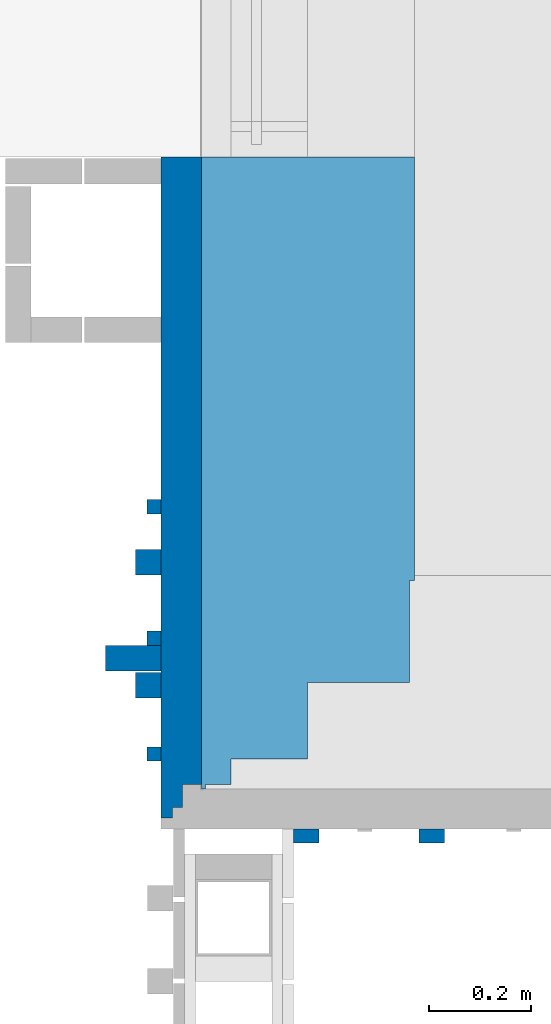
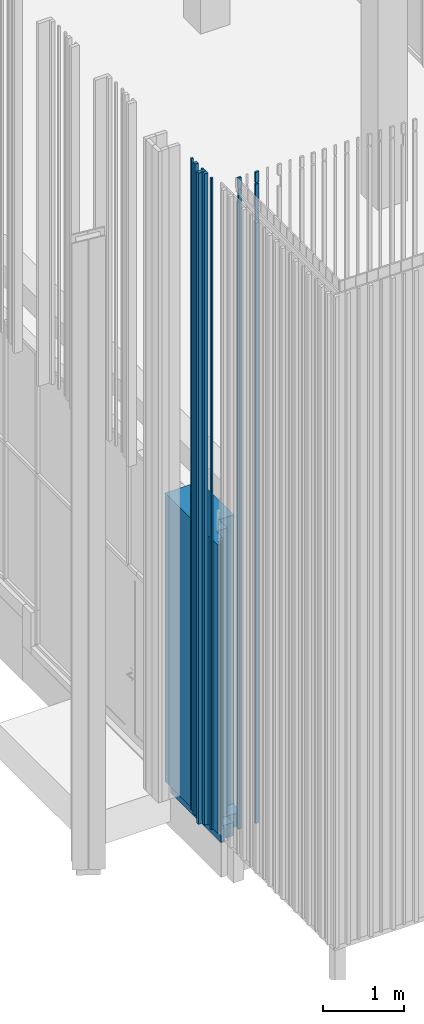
# One storey, part 86 of 390: 10 walls.
"""IFC2X3 building model written with IfcOpenShell, lengths in millimetres."""

from ifc_helpers import new_model, entity, si_unit, converted_unit, derived_unit, money_unit, direction, frame, origin_with_axes, place, context, subcontext, project, spatial, faceted_brep, material, material_list, type_object, element, save


model = new_model("IFC2X3")

# Units and contexts
model_context = context("Model", 3, precision=1e-05, world=origin_with_axes(), true_north=direction((0.0, 1.0)))
body_context = subcontext(model_context, "Body", "Model", "MODEL_VIEW")
ifc_project = project(units=[si_unit("LENGTHUNIT", "METRE", prefix="MILLI"), si_unit("AREAUNIT", "SQUARE_METRE"), si_unit("VOLUMEUNIT", "CUBIC_METRE"), converted_unit("PLANEANGLEUNIT", "DEGREE", entity("IfcPlaneAngleMeasure", 0.0174532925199), si_unit("PLANEANGLEUNIT", "RADIAN"), dimensions=[0, 0, 0, 0, 0, 0, 0]), si_unit("SOLIDANGLEUNIT", "STERADIAN"), money_unit("EUR"), converted_unit("TIMEUNIT", "Year", entity("IfcTimeMeasure", 31556926.0), si_unit("TIMEUNIT", "SECOND"), dimensions=[0, 0, 1, 0, 0, 0, 0]), si_unit("MASSUNIT", "GRAM", prefix="KILO"), si_unit("THERMODYNAMICTEMPERATUREUNIT", "DEGREE_CELSIUS"), si_unit("LUMINOUSINTENSITYUNIT", "LUMEN"), si_unit("ENERGYUNIT", "JOULE", prefix="MEGA"), derived_unit("THERMALCONDUCTANCEUNIT", [(si_unit("POWERUNIT", "WATT"), 1), (si_unit("LENGTHUNIT", "METRE"), -1), (si_unit("THERMODYNAMICTEMPERATUREUNIT", "KELVIN"), -1)]), derived_unit("SPECIFICHEATCAPACITYUNIT", [(si_unit("ENERGYUNIT", "JOULE"), 1), (si_unit("MASSUNIT", "GRAM", prefix="KILO"), -1), (si_unit("THERMODYNAMICTEMPERATUREUNIT", "KELVIN"), -1)]), derived_unit("MASSDENSITYUNIT", [(si_unit("MASSUNIT", "GRAM", prefix="KILO"), 1), (si_unit("VOLUMEUNIT", "CUBIC_METRE"), -1)])], contexts=[model_context])

# Site, building, storey
site_placement = place(None, origin_with_axes())
site = spatial("IfcSite", under=ifc_project, at=site_placement, Name="Site", CompositionType="ELEMENT")
building_placement = place(site_placement, origin_with_axes())
building = spatial("IfcBuilding", under=site, at=building_placement, Name="Building", CompositionType="ELEMENT")
storey_placement = place(building_placement, origin_with_axes())
storey = spatial("IfcBuildingStorey", under=building, at=storey_placement, Name="1 korrus", CompositionType="ELEMENT", Elevation=0.0)

# Walls
ifc_material_1 = material(Name="Puit - Konstruktsioon")
ifc_material_2 = material(Name="Õhkvahe")
ifc_material_3 = material(Name="Soojustus - Plastik Kõva")
ifc_material_4 = material(Name="Raudbetoon - Toode")
ifc_material_5 = material(Name="Krohv - Lubjakivi")
ifc_material_list_1 = material_list([ifc_material_1, ifc_material_1, ifc_material_2, ifc_material_3, ifc_material_3, ifc_material_4, ifc_material_5])
wall_type_1 = type_object("IfcWallType", Name="VS-01", PredefinedType="NOTDEFINED")
wall_1_placement = place(storey_placement, frame((122909.999998, 45760.0000084, 99.9999970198), z_axis=(0.0, 0.0, 1.0), x_axis=(-1.18227362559e-10, 1.0, 0.0)))
element("IfcWall", 1, at=wall_1_placement, inside=storey, type_object=wall_type_1, material=ifc_material_list_1, Name="VS-01", context=body_context, shape_type="Brep", body=[
    faceted_brep([(-474.999997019, 497.000000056, 0.0), (820.000114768, 496.999999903, 0.0), (820.000114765, 474.999999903, 0.0), (-474.999997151, 475.000000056, 0.0), (-474.999997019, 497.000000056, 4324.99965505), (820.000114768, 496.999999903, 4324.99965505), (820.000114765, 474.999999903, 4324.99965505), (-474.999997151, 475.000000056, 4324.99965505)], [[[0, 1, 2, 3]], [[4, 5, 1, 0]], [[2, 1, 5, 6]], [[3, 2, 6, 7]], [[4, 0, 3, 7]], [[7, 6, 5, 4]]]),
    faceted_brep([(-454.999997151, 475.000000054, 0.0), (820.000114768, 474.999999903, 0.0), (820.000114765, 454.999999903, 0.0), (-454.999997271, 455.000000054, 0.0), (-454.999997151, 475.000000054, 4324.99965505), (820.000114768, 474.999999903, 4324.99965505), (820.000114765, 454.999999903, 4324.99965505), (-454.999997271, 455.000000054, 4324.99965505)], [[[0, 1, 2, 3]], [[4, 5, 1, 0]], [[2, 1, 5, 6]], [[3, 2, 6, 7]], [[4, 0, 3, 7]], [[7, 6, 5, 4]]]),
    faceted_brep([(-409.999997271, 455.000000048, 0.0), (820.00011477, 454.999999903, 0.0), (820.000114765, 409.999999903, 0.0), (-409.999997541, 410.000000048, 0.0), (-409.999997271, 455.000000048, 4324.99965505), (820.00011477, 454.999999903, 4324.99965505), (820.000114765, 409.999999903, 4324.99965505), (-409.999997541, 410.000000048, 4324.99965505)], [[[0, 1, 2, 3]], [[4, 5, 1, 0]], [[2, 1, 5, 6]], [[3, 2, 6, 7]], [[4, 0, 3, 7]], [[7, 6, 5, 4]]]),
    faceted_brep([(-359.999997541, 410.000000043, 0.0), (820.000114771, 409.999999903, 0.0), (820.000114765, 359.999999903, 0.0), (-359.999997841, 360.000000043, 0.0), (-359.999997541, 410.000000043, 4324.99965505), (820.000114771, 409.999999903, 4324.99965505), (820.000114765, 359.999999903, 4324.99965505), (-359.999997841, 360.000000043, 4324.99965505)], [[[0, 1, 2, 3]], [[4, 5, 1, 0]], [[2, 1, 5, 6]], [[3, 2, 6, 7]], [[4, 0, 3, 7]], [[7, 6, 5, 4]]]),
    faceted_brep([(-209.999997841, 360.000000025, 0.0), (820.000114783, 359.999999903, 0.0), (820.000114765, 209.999999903, 0.0), (-209.99999874, 210.000000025, 0.0), (-209.999997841, 360.000000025, 4324.99965505), (820.000114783, 359.999999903, 4324.99965505), (820.000114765, 209.999999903, 4324.99965505), (-209.99999874, 210.000000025, 4324.99965505)], [[[0, 1, 2, 3]], [[4, 5, 1, 0]], [[2, 1, 5, 6]], [[3, 2, 6, 7]], [[4, 0, 3, 7]], [[7, 6, 5, 4]]]),
    faceted_brep([(-9.99999874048, 210.000000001, 0.0), (820.000114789, 209.999999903, 0.0), (820.000114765, 9.99999990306, 0.0), (-9.99999994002, 10.0000000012, 0.0), (-9.99999874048, 210.000000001, 4324.99965505), (820.000114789, 209.999999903, 4324.99965505), (820.000114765, 9.99999990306, 4324.99965505), (-9.99999994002, 10.0000000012, 4324.99965505)], [[[0, 1, 2, 3]], [[4, 5, 1, 0]], [[2, 1, 5, 6]], [[3, 2, 6, 7]], [[4, 0, 3, 7]], [[7, 6, 5, 4]]]),
    faceted_brep([(5.99769123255e-08, 10.0, 0.0), (820.000114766, 9.99999990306, 0.0), (820.000114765, -9.69464508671e-08, 0.0), (0.0, 0.0, 0.0), (5.99769123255e-08, 10.0, 4324.99965505), (820.000114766, 9.99999990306, 4324.99965505), (820.000114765, -9.69464508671e-08, 4324.99965505), (0.0, 0.0, 4324.99965505)], [[[0, 1, 2, 3]], [[4, 5, 1, 0]], [[2, 1, 5, 6]], [[3, 2, 6, 7]], [[4, 0, 3, 7]], [[7, 6, 5, 4]]]),
])
ifc_material_6 = material(Name="Site specified")
ifc_material_list_2 = material_list([ifc_material_6, ifc_material_6])
wall_type_2 = type_object("IfcWallType", Name="Puitfassaadi ribistik", PredefinedType="NOTDEFINED")
wall_2_placement = place(storey_placement, frame((122697.99996, 45260.9999259, 100.000000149), z_axis=(0.0, 0.0, 1.0), x_axis=(-1.0, 0.0, 0.0)))
element("IfcWall", 2, at=wall_2_placement, inside=storey, type_object=wall_type_2, material=ifc_material_list_2, Name="Site specified", context=body_context, shape_type="Brep", body=[
    faceted_brep([(25.0, -1.99998620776, -3.12924797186e-06), (25.0, -2.00008252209, 9438.5673503), (18.0000000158, -2.00008252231, 9438.5673503), (18.0000000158, -1.99983969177, 9591.91840404), (-25.0, -2.00008252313, 9591.91726162), (-25.0, -1.99998620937, -3.12924797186e-06), (25.0, 25.0, 0.0), (25.0, 25.0, 9432.82829164), (18.0000000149, 25.0, 9432.82829164), (18.0000000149, 25.0002399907, 9586.17934598), (-25.0, 25.0, 9586.17821691), (-25.0, 25.0, 0.0)], [[[0, 1, 2, 3, 4, 5]], [[6, 7, 1, 0]], [[8, 2, 1, 7]], [[8, 9, 3, 2]], [[4, 3, 9, 10]], [[11, 5, 4, 10]], [[6, 0, 5, 11]], [[9, 8, 7, 6, 11, 10]]]),
    faceted_brep([(-25.0, 25.0, 9764.99999985), (-25.0, 25.0, 9607.64736941), (-25.0, -2.0000825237, 9613.38641411), (-25.0, -2.0000825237, 9764.99999985), (25.0, 25.0, 9764.99999985), (25.0, 25.0, 9607.64736941), (25.0, -2.00008252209, 9613.38641411), (25.0, -2.00008252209, 9764.99999985)], [[[0, 1, 2, 3]], [[4, 5, 1, 0]], [[5, 6, 2, 1]], [[3, 2, 6, 7]], [[3, 7, 4, 0]], [[7, 6, 5, 4]]]),
])
wall_3_placement = place(storey_placement, frame((122943.999994, 45260.9999259, 100.000000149), z_axis=(0.0, 0.0, 1.0), x_axis=(-1.0, 0.0, 0.0)))
element("IfcWall", 3, at=wall_3_placement, inside=storey, type_object=wall_type_2, material=ifc_material_list_2, Name="Site specified", context=body_context, shape_type="Brep", body=[
    faceted_brep([(25.0, -1.99998620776, -3.12924797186e-06), (25.0, -2.00008252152, 9591.91726162), (-25.0, -2.00008252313, 9591.91726162), (-25.0, -1.99998620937, -3.12924797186e-06), (25.0, 25.0, 0.0), (25.0, 25.0, 9586.17821691), (-25.0, 25.0, 9586.17821691), (-25.0, 25.0, 0.0)], [[[0, 1, 2, 3]], [[4, 5, 1, 0]], [[5, 6, 2, 1]], [[3, 2, 6, 7]], [[0, 3, 7, 4]], [[7, 6, 5, 4]]]),
    faceted_brep([(-25.0, 25.0, 9764.99999985), (-25.0, 25.0, 9607.64736941), (-25.0, -2.0000825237, 9613.38641411), (-25.0, -2.0000825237, 9764.99999985), (25.0, 25.0, 9764.99999985), (25.0, 25.0, 9607.64736941), (25.0, -2.00008252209, 9613.38641411), (25.0, -2.00008252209, 9764.99999985)], [[[0, 1, 2, 3]], [[4, 5, 1, 0]], [[5, 6, 2, 1]], [[3, 2, 6, 7]], [[3, 7, 4, 0]], [[7, 6, 5, 4]]]),
])
wall_4_placement = place(storey_placement, frame((122358.499998, 45597.9999773, 99.9999970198), z_axis=(0.0, 0.0, 1.0), x_axis=(0.0, 1.0, 0.0)))
element("IfcWall", 4, at=wall_4_placement, inside=storey, type_object=wall_type_2, material=ifc_material_6, Name="Site specified", context=body_context, shape_type="Brep", body=[
    faceted_brep([(-25.0, 54.5, 9765.00000298), (25.0, 54.5, 9765.00000298), (25.0, 54.5, 0.0), (-25.0, 54.5, 0.0), (-25.0, -54.5, 9765.00000298), (25.0, -54.5, 9765.00000298), (25.0, -54.5, 0.0), (-25.0, -54.5, 0.0)], [[[0, 1, 2, 3]], [[4, 5, 1, 0]], [[1, 5, 6, 2]], [[7, 3, 2, 6]], [[4, 0, 3, 7]], [[5, 4, 7, 6]]]),
])
wall_5_placement = place(storey_placement, frame((122398.999998, 45636.9999773, 99.9999970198), z_axis=(0.0, 0.0, 1.0), x_axis=(0.0, 1.0, 0.0)))
element("IfcWall", 5, at=wall_5_placement, inside=storey, type_object=wall_type_2, material=ifc_material_6, Name="Site specified", context=body_context, shape_type="Brep", body=[
    faceted_brep([(-14.0, 14.0, 9765.00000298), (14.0, 14.0, 9765.00000298), (14.0, 14.0, 0.0), (-14.0, 14.0, 0.0), (-14.0, -14.0, 9765.00000298), (14.0, -14.0, 9765.00000298), (14.0, -14.0, 0.0), (-14.0, -14.0, 0.0)], [[[0, 1, 2, 3]], [[4, 5, 1, 0]], [[1, 5, 6, 2]], [[7, 3, 2, 6]], [[4, 0, 3, 7]], [[5, 4, 7, 6]]]),
])
wall_6_placement = place(storey_placement, frame((122398.999998, 45894.9999773, 99.9999970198), z_axis=(0.0, 0.0, 1.0), x_axis=(0.0, 1.0, 0.0)))
element("IfcWall", 6, at=wall_6_placement, inside=storey, type_object=wall_type_2, material=ifc_material_6, Name="Site specified", context=body_context, shape_type="Brep", body=[
    faceted_brep([(14.0, 14.0, 9765.00000298), (14.0, 14.0, 0.0), (-14.0, 14.0, 0.0), (-14.0, 14.0, 9765.00000298), (14.0, -14.0, 9765.00000298), (14.0, -14.0, 0.0), (-14.0, -14.0, 0.0), (-14.0, -14.0, 9765.00000298)], [[[0, 1, 2, 3]], [[4, 5, 1, 0]], [[2, 1, 5, 6]], [[3, 2, 6, 7]], [[4, 0, 3, 7]], [[7, 6, 5, 4]]]),
])
wall_7_placement = place(storey_placement, frame((122387.999998, 45785.9999773, 99.9999970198), z_axis=(0.0, 0.0, 1.0), x_axis=(0.0, 1.0, 0.0)))
element("IfcWall", 7, at=wall_7_placement, inside=storey, type_object=wall_type_2, material=ifc_material_6, Name="Site specified", context=body_context, shape_type="Brep", body=[
    faceted_brep([(25.0, 25.0, 9765.00000298), (25.0, 25.0, 0.0), (-25.0, 25.0, 0.0), (-25.0, 25.0, 9765.00000298), (25.0, -25.0, 9765.00000298), (25.0, -25.0, 0.0), (-25.0, -25.0, 0.0), (-25.0, -25.0, 9765.00000298)], [[[0, 1, 2, 3]], [[4, 5, 1, 0]], [[2, 1, 5, 6]], [[3, 2, 6, 7]], [[4, 0, 3, 7]], [[7, 6, 5, 4]]]),
])
wall_8_placement = place(storey_placement, frame((122398.999998, 45409.9999773, 99.9999970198), z_axis=(0.0, 0.0, 1.0), x_axis=(0.0, 1.0, 0.0)))
element("IfcWall", 8, at=wall_8_placement, inside=storey, type_object=wall_type_2, material=ifc_material_6, Name="Site specified", context=body_context, shape_type="Brep", body=[
    faceted_brep([(-14.0, 14.0, 9765.00000298), (14.0, 14.0, 9765.00000298), (14.0, 14.0, 0.0), (-14.0, 14.0, 0.0), (-14.0, -14.0, 9765.00000298), (14.0, -14.0, 9765.00000298), (14.0, -14.0, 0.0), (-14.0, -14.0, 0.0)], [[[0, 1, 2, 3]], [[4, 5, 1, 0]], [[1, 5, 6, 2]], [[7, 3, 2, 6]], [[4, 0, 3, 7]], [[5, 4, 7, 6]]]),
])
wall_9_placement = place(storey_placement, frame((122387.999998, 45544.9999773, 99.9999970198), z_axis=(0.0, 0.0, 1.0), x_axis=(0.0, 1.0, 0.0)))
element("IfcWall", 9, at=wall_9_placement, inside=storey, type_object=wall_type_2, material=ifc_material_6, Name="Site specified", context=body_context, shape_type="Brep", body=[
    faceted_brep([(-25.0, 25.0, 9765.00000298), (25.0, 25.0, 9765.00000298), (25.0, 25.0, 0.0), (-25.0, 25.0, 0.0), (-25.0, -25.0, 9765.00000298), (25.0, -25.0, 9765.00000298), (25.0, -25.0, 0.0), (-25.0, -25.0, 0.0)], [[[0, 1, 2, 3]], [[4, 5, 1, 0]], [[1, 5, 6, 2]], [[7, 3, 2, 6]], [[4, 0, 3, 7]], [[5, 4, 7, 6]]]),
])
ifc_material_7 = material(Name="Plaat - Sein")
ifc_material_8 = material(Name="Raudbetoon - Konstruktsioon")
ifc_material_list_3 = material_list([ifc_material_7, ifc_material_3, ifc_material_3, ifc_material_8, ifc_material_5])
wall_type_3 = type_object("IfcWallType", Name="VS-05", PredefinedType="NOTDEFINED")
wall_10_placement = place(storey_placement, frame((122909.999995, 45760.0000092, -100.0), z_axis=(0.0, 0.0, 1.0), x_axis=(0.0, 1.0, 0.0)))
element("IfcWall", 10, at=wall_10_placement, inside=storey, type_object=wall_type_3, material=ifc_material_list_3, Name="VS-05", context=body_context, shape_type="Brep", body=[
    faceted_brep([(820.000113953, 418.000000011, 0.0), (820.000113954, 410.000000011, 0.0), (-418.00000007, 409.999999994, 0.0), (-418.000000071, 417.999999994, 0.0), (820.000113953, 418.000000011, 200.0), (820.000113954, 410.000000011, 200.0), (-418.00000007, 409.999999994, 200.0), (-418.000000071, 417.999999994, 200.0)], [[[0, 1, 2, 3]], [[0, 4, 5, 1]], [[1, 5, 6, 2]], [[3, 2, 6, 7]], [[4, 0, 3, 7]], [[5, 4, 7, 6]]]),
    faceted_brep([(820.000113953, 410.000000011, 0.0), (820.000113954, 360.000000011, 0.0), (-410.000000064, 359.999999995, 0.0), (-410.00000007, 409.999999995, 0.0), (820.000113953, 410.000000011, 200.0), (820.000113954, 360.000000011, 200.0), (-410.000000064, 359.999999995, 200.0), (-410.00000007, 409.999999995, 200.0)], [[[0, 1, 2, 3]], [[0, 4, 5, 1]], [[1, 5, 6, 2]], [[3, 2, 6, 7]], [[4, 0, 3, 7]], [[5, 4, 7, 6]]]),
    faceted_brep([(820.000113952, 360.000000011, 0.0), (820.000113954, 210.000000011, 0.0), (-360.000000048, 209.999999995, 0.0), (-360.000000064, 359.999999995, 0.0), (820.000113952, 360.000000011, 200.0), (820.000113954, 210.000000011, 200.0), (-360.000000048, 209.999999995, 200.0), (-360.000000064, 359.999999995, 200.0)], [[[0, 1, 2, 3]], [[0, 4, 5, 1]], [[1, 5, 6, 2]], [[3, 2, 6, 7]], [[4, 0, 3, 7]], [[5, 4, 7, 6]]]),
    faceted_brep([(820.000113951, 210.000000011, 0.0), (820.000113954, 10.000000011, 0.0), (-210.000000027, 9.99999999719, 0.0), (-210.000000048, 209.999999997, 0.0), (820.000113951, 210.000000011, 200.0), (820.000113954, 10.000000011, 200.0), (-210.000000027, 9.99999999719, 200.0), (-210.000000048, 209.999999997, 200.0)], [[[0, 1, 2, 3]], [[0, 4, 5, 1]], [[1, 5, 6, 2]], [[3, 2, 6, 7]], [[4, 0, 3, 7]], [[5, 4, 7, 6]]]),
    faceted_brep([(820.000113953, 10.000000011, 0.0), (820.000113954, 1.09849906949e-08, 0.0), (-10.0000000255, -1.27897692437e-10, 0.0), (-10.0000000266, 9.99999999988, 0.0), (820.000113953, 10.000000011, 200.0), (820.000113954, 1.09849906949e-08, 200.0), (-10.0000000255, -1.27897692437e-10, 200.0), (-10.0000000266, 9.99999999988, 200.0)], [[[0, 1, 2, 3]], [[0, 4, 5, 1]], [[1, 5, 6, 2]], [[3, 2, 6, 7]], [[4, 0, 3, 7]], [[5, 4, 7, 6]]]),
])

save(model, "model.ifc")
